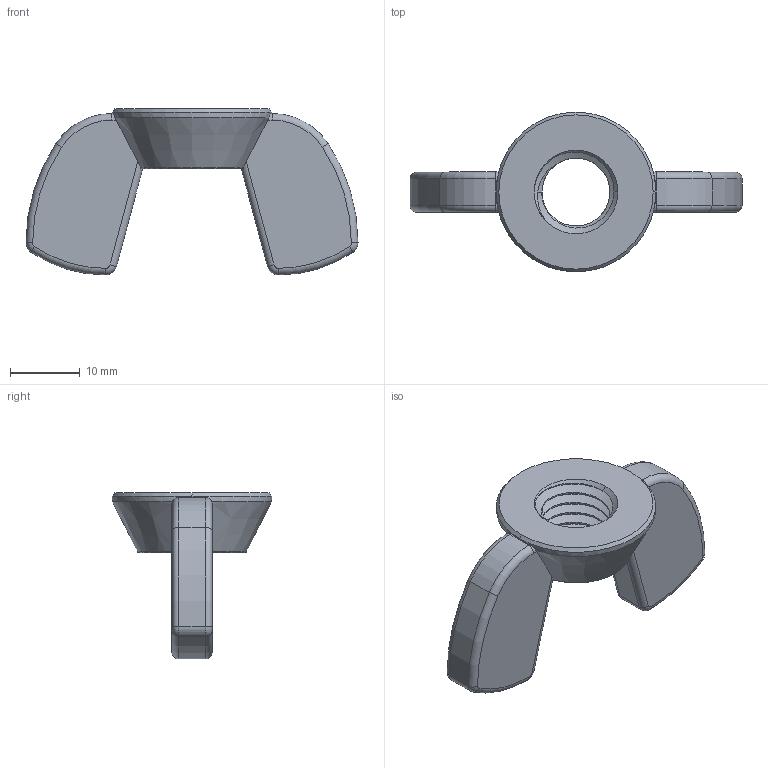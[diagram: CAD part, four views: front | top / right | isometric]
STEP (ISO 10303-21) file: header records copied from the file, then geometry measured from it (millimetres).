
FILE_DESCRIPTION (( 'STEP AP203' ), '1' );
FILE_NAME ('WING NUT M12 x 1.75mm Thread.STEP', '2017-05-02T01:04:41', ( '' ), ( '' ), 'SwSTEP 2.0', 'SolidWorks 2014', '' );
FILE_SCHEMA (( 'CONFIG_CONTROL_DESIGN' ));
Length unit declared in the file: millimetre
Products named in the file (1): WING NUT M12 x 1.75mm Thread
Bounding box: 47.6 x 22.92 x 23.8 mm (x, y, z)
Volume: 4935 mm3; surface area: 2974.8 mm2
Topology: 1 solids, 1 shells, 83 faces, 214 edges, 133 vertices
Faces by surface type: cylinder 37, torus 22, cone 12, plane 10, bspline 2
Entity records: 3261 total; most frequent: CARTESIAN_POINT 1281, ORIENTED_EDGE 428, DIRECTION 393, EDGE_CURVE 214, AXIS2_PLACEMENT_3D 169, VERTEX_POINT 133, CIRCLE 87, EDGE_LOOP 85
